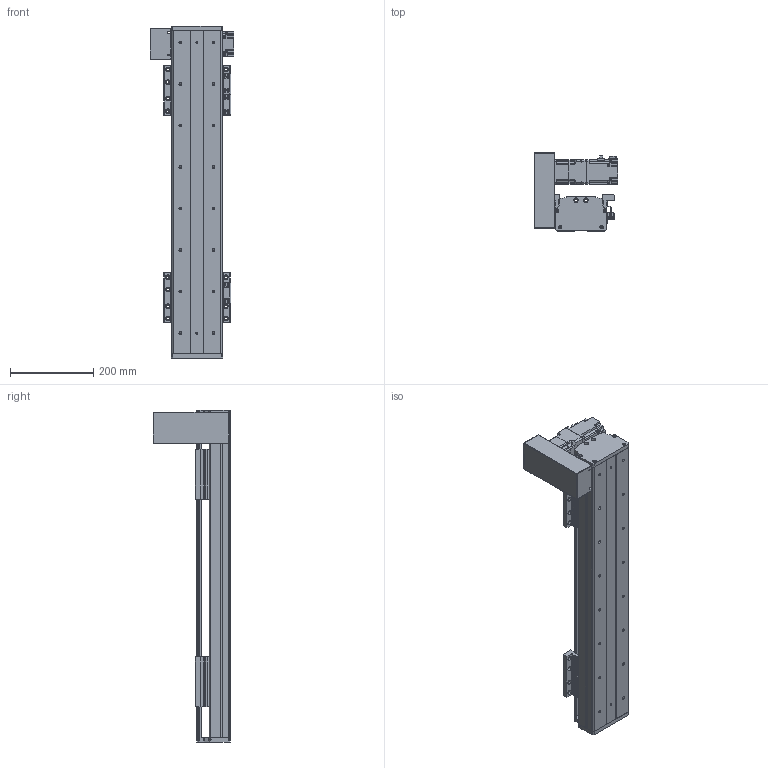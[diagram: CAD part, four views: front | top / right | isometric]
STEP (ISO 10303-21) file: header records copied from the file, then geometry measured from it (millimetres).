
FILE_DESCRIPTION(/* description */ (''),/* implementation_level */ '2;1');
FILE_NAME(/* name */ 'C:\Users\PC\Desktop\3D도면\STEP\DSB125-UL2G-W0500-R.stp',/* time_stamp */ '2018-06-19T00:39:31-07:00',/* author */ ('PC'),/* organization */ (''),/* preprocessor_version */ 'ST-DEVELOPER v16.5',/* originating_system */ 'Autodesk Inventor 2017',/* authorisation */ '');
FILE_SCHEMA (('AUTOMOTIVE_DESIGN { 1 0 10303 214 3 1 1 }'));
Length unit declared in the file: millimetre
Products named in the file (12): DSB125-L-300ST; DSR125-BASE(S-TYPE); DSR125-UP COVER-R01(170203); DSR125-REAR COVER-R01(170203); DSR125-REAR COVER-R01(170203)_1; hg-kr23_; ab0601-p0401200402; 13-BELT COVER; DSR126-SENSOR DOG; SENSOR BRACKET(EE-SX674A); pm-y65_step; DSR125-TABLE(MSA15X)
Assembly tree (16 placements, depth 2):
  DSB125-L-300ST
    DSR125-BASE(S-TYPE)
    DSR125-UP COVER-R01(170203)
    DSR125-REAR COVER-R01(170203)
    DSR125-REAR COVER-R01(170203)_1
    hg-kr23_
    ab0601-p0401200402
    13-BELT COVER
    DSR126-SENSOR DOG
    SENSOR BRACKET(EE-SX674A)  x3
    pm-y65_step  x3
    DSR125-TABLE(MSA15X)  x2
Bounding box: 202.1 x 187 x 800 mm (x, y, z)
Volume: 3416428.7 mm3; surface area: 987765 mm2
Topology: 17 solids, 22 shells, 1653 faces, 4481 edges, 2958 vertices
Faces by surface type: plane 908, cylinder 627, cone 106, sphere 8, torus 4
Full cylindrical faces by diameter (mm): 2.459 x20, 3.242 x16, 3.5 x6, 4 x1, 4.134 x16, 4.2 x4, 4.3 x1, 4.5 x50, 4.917 x20, 5 x27, 5.3 x1, 5.5 x4, 5.6 x8, 5.8 x4, 5.9 x8, 6 x4, 6.6 x22, 6.647 x16, 7.5 x32, 8.5 x8, 8.7 x1, 11 x22, 14 x1, 16 x2, 17 x1, 20 x1, 47 x1, 50 x3
Entity records: 35190 total; most frequent: CARTESIAN_POINT 6475, DIRECTION 6092, ORIENTED_EDGE 5462, EDGE_CURVE 2736, AXIS2_PLACEMENT_3D 2234, VERTEX_POINT 1945, EDGE_LOOP 1657, LINE 1624
